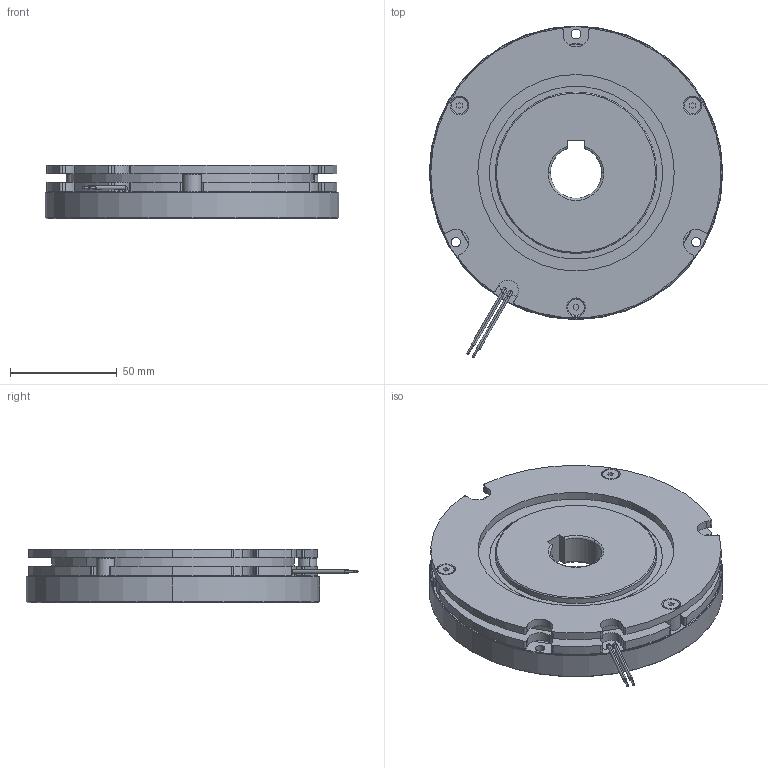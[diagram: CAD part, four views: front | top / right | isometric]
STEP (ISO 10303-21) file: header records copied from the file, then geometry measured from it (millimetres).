
FILE_DESCRIPTION (( 'STEP AP214' ), '1' );
FILE_NAME ('ÌÞÚ°·_BXR-12-20_A.STEP', '2017-08-08T10:05:07', ( 'MIKI' ), ( '' ), 'SwSTEP 2.0', 'SolidWorks 2012', '' );
FILE_SCHEMA (( 'AUTOMOTIVE_DESIGN' ));
Length unit declared in the file: millimetre
Products named in the file (1): 枌痚愷BXR-12-20_A
Bounding box: 137.5 x 155.49 x 25 mm (x, y, z)
Volume: 287658.1 mm3; surface area: 86235.7 mm2
Topology: 1 solids, 4 shells, 309 faces, 754 edges, 480 vertices
Faces by surface type: cylinder 164, plane 84, cone 47, torus 14
Entity records: 12731 total; most frequent: DIRECTION 1778, CARTESIAN_POINT 1586, ORIENTED_EDGE 1508, EDGE_CURVE 754, AXIS2_PLACEMENT_3D 720, VERTEX_POINT 480, CIRCLE 410, EDGE_LOOP 376
